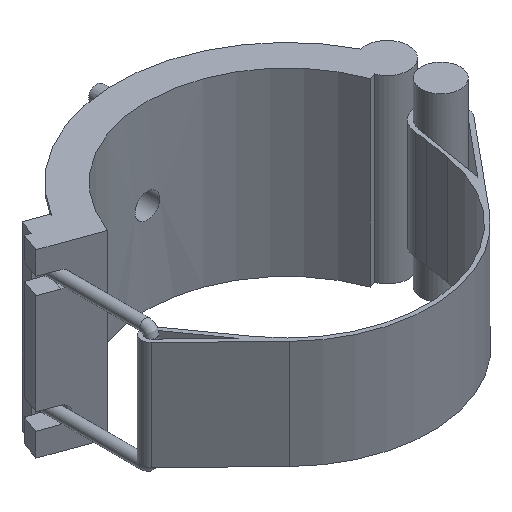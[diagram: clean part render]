
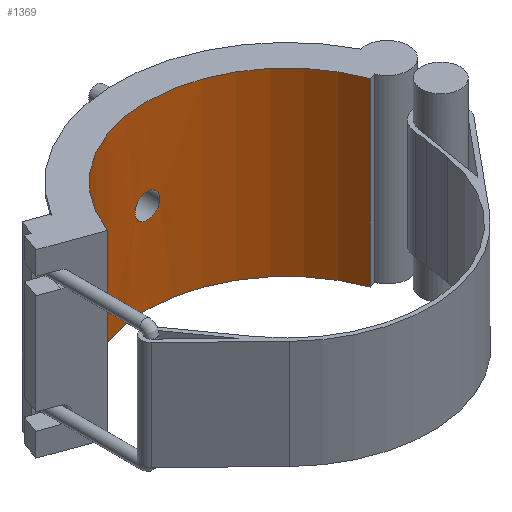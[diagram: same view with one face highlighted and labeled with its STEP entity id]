
A CAD part, isometric view. The second image highlights one B-rep face of the part: STEP entity #1369.
In plain terms, the highlighted cylindrical face has radius 136.35 mm (diameter 272.7 mm), a partial arc.
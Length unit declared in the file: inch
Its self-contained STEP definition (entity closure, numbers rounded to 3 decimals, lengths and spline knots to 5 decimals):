
#27=B_SPLINE_CURVE_WITH_KNOTS('',3,(#2424,#2425,#2426,#2427,#2428,#2429,
#2430,#2431,#2432,#2433,#2434,#2435,#2436,#2437,#2438,#2439,#2440,#2441,
#2442,#2443,#2444,#2445,#2446,#2447,#2448,#2449,#2450,#2451,#2452,#2453,
#2454,#2455,#2456,#2457),.UNSPECIFIED.,.T.,.F.,(4,2,2,2,2,2,2,2,2,2,2,2,
2,2,2,2,4),(0.,0.45667,0.91334,1.37,1.82667,
2.28334,2.74,3.19667,3.65334,4.11001,
4.56667,5.02334,5.48001,5.93667,6.39334,
6.85001,7.30668),.UNSPECIFIED.);
#52=CYLINDRICAL_SURFACE('',#1517,5.36811);
#75=FACE_BOUND('',#295,.T.);
#119=CIRCLE('',#1483,5.36811);
#130=CIRCLE('',#1515,5.36811);
#205=FACE_OUTER_BOUND('',#294,.T.);
#294=EDGE_LOOP('',(#1181,#1182,#1183,#1184));
#295=EDGE_LOOP('',(#1185));
#374=LINE('',#2141,#488);
#426=LINE('',#2421,#540);
#488=VECTOR('',#1714,0.3937);
#540=VECTOR('',#1868,0.3937);
#619=VERTEX_POINT('',#2138);
#620=VERTEX_POINT('',#2140);
#641=VERTEX_POINT('',#2210);
#657=VERTEX_POINT('',#2417);
#658=VERTEX_POINT('',#2423);
#764=EDGE_CURVE('',#620,#619,#374,.T.);
#800=EDGE_CURVE('',#620,#641,#119,.T.);
#837=EDGE_CURVE('',#657,#619,#130,.T.);
#838=EDGE_CURVE('',#657,#641,#426,.T.);
#839=EDGE_CURVE('',#658,#658,#27,.T.);
#1181=ORIENTED_EDGE('',*,*,#838,.T.);
#1182=ORIENTED_EDGE('',*,*,#800,.F.);
#1183=ORIENTED_EDGE('',*,*,#764,.T.);
#1184=ORIENTED_EDGE('',*,*,#837,.F.);
#1185=ORIENTED_EDGE('',*,*,#839,.T.);
#1369=ADVANCED_FACE('',(#205,#75),#52,.F.);
#1483=AXIS2_PLACEMENT_3D('',#2211,#1780,#1781);
#1515=AXIS2_PLACEMENT_3D('',#2419,#1864,#1865);
#1517=AXIS2_PLACEMENT_3D('',#2422,#1869,#1870);
#1714=DIRECTION('',(0.,0.,-1.));
#1780=DIRECTION('center_axis',(0.,0.,-1.));
#1781=DIRECTION('ref_axis',(-1.,0.,0.));
#1864=DIRECTION('center_axis',(0.,0.,1.));
#1865=DIRECTION('ref_axis',(-1.,0.,0.));
#1868=DIRECTION('',(0.,0.,1.));
#1869=DIRECTION('center_axis',(0.,0.,1.));
#1870=DIRECTION('ref_axis',(-1.,0.,0.));
#2138=CARTESIAN_POINT('',(-5.04437,1.836,-3.465));
#2140=CARTESIAN_POINT('',(-5.04437,1.836,3.465));
#2141=CARTESIAN_POINT('',(-5.04437,1.836,0.));
#2210=CARTESIAN_POINT('',(5.04437,1.836,3.465));
#2211=CARTESIAN_POINT('Origin',(0.,0.,3.465));
#2417=CARTESIAN_POINT('',(5.04437,1.836,-3.465));
#2419=CARTESIAN_POINT('Origin',(0.,0.,-3.465));
#2421=CARTESIAN_POINT('',(5.04437,1.836,0.));
#2422=CARTESIAN_POINT('Origin',(0.,0.,0.));
#2423=CARTESIAN_POINT('',(0.47702,5.34687,0.));
#2424=CARTESIAN_POINT('Ctrl Pts',(0.47702,5.34687,0.));
#2425=CARTESIAN_POINT('Ctrl Pts',(0.47702,5.34687,-0.05993));
#2426=CARTESIAN_POINT('Ctrl Pts',(0.46504,5.34798,-0.12383));
#2427=CARTESIAN_POINT('Ctrl Pts',(0.41635,5.352,-0.24135));
#2428=CARTESIAN_POINT('Ctrl Pts',(0.37964,5.35484,-0.29497));
#2429=CARTESIAN_POINT('Ctrl Pts',(0.29497,5.36017,-0.37964));
#2430=CARTESIAN_POINT('Ctrl Pts',(0.24135,5.363,-0.41635));
#2431=CARTESIAN_POINT('Ctrl Pts',(0.12383,5.367,-0.46504));
#2432=CARTESIAN_POINT('Ctrl Pts',(0.05993,5.36811,-0.47702));
#2433=CARTESIAN_POINT('Ctrl Pts',(-0.05993,5.36811,
-0.47702));
#2434=CARTESIAN_POINT('Ctrl Pts',(-0.12383,5.367,-0.46504));
#2435=CARTESIAN_POINT('Ctrl Pts',(-0.24135,5.363,-0.41635));
#2436=CARTESIAN_POINT('Ctrl Pts',(-0.29497,5.36017,-0.37964));
#2437=CARTESIAN_POINT('Ctrl Pts',(-0.37964,5.35484,-0.29497));
#2438=CARTESIAN_POINT('Ctrl Pts',(-0.41635,5.352,-0.24135));
#2439=CARTESIAN_POINT('Ctrl Pts',(-0.46504,5.34798,-0.12383));
#2440=CARTESIAN_POINT('Ctrl Pts',(-0.47702,5.34687,-0.05993));
#2441=CARTESIAN_POINT('Ctrl Pts',(-0.47702,5.34687,0.05993));
#2442=CARTESIAN_POINT('Ctrl Pts',(-0.46504,5.34798,0.12383));
#2443=CARTESIAN_POINT('Ctrl Pts',(-0.41635,5.352,0.24135));
#2444=CARTESIAN_POINT('Ctrl Pts',(-0.37964,5.35484,0.29497));
#2445=CARTESIAN_POINT('Ctrl Pts',(-0.29497,5.36017,0.37964));
#2446=CARTESIAN_POINT('Ctrl Pts',(-0.24135,5.363,0.41635));
#2447=CARTESIAN_POINT('Ctrl Pts',(-0.12383,5.367,0.46504));
#2448=CARTESIAN_POINT('Ctrl Pts',(-0.05993,5.36811,
0.47702));
#2449=CARTESIAN_POINT('Ctrl Pts',(0.05993,5.36811,0.47702));
#2450=CARTESIAN_POINT('Ctrl Pts',(0.12383,5.367,0.46504));
#2451=CARTESIAN_POINT('Ctrl Pts',(0.24135,5.363,0.41635));
#2452=CARTESIAN_POINT('Ctrl Pts',(0.29497,5.36017,0.37964));
#2453=CARTESIAN_POINT('Ctrl Pts',(0.37964,5.35484,0.29497));
#2454=CARTESIAN_POINT('Ctrl Pts',(0.41635,5.352,0.24135));
#2455=CARTESIAN_POINT('Ctrl Pts',(0.46504,5.34798,0.12383));
#2456=CARTESIAN_POINT('Ctrl Pts',(0.47702,5.34687,0.05993));
#2457=CARTESIAN_POINT('Ctrl Pts',(0.47702,5.34687,0.));
